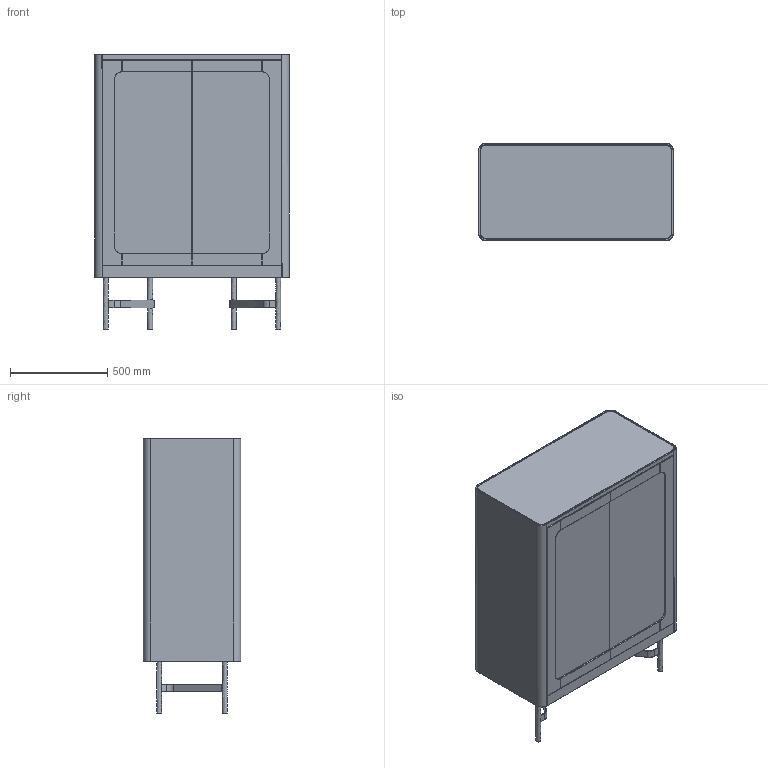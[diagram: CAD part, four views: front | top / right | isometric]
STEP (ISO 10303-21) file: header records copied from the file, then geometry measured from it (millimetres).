
FILE_DESCRIPTION(/* description */ (''),/* implementation_level */ '2;1');
FILE_NAME(/* name */ 'hipper MADIA ME TZAMI',/* time_stamp */ '2023-02-18T13:38:45+02:00',/* author */ (''),/* organization */ (''),/* preprocessor_version */ 'ST-DEVELOPER v16.5',/* originating_system */ '',/* authorisation */ '');
FILE_SCHEMA (('AUTOMOTIVE_DESIGN'));
Length unit declared in the file: millimetre
Products named in the file (1): Document
Bounding box: 1001.16 x 500 x 1410.86 mm (x, y, z)
Volume: 122388074.8 mm3; surface area: 13648366.5 mm2
Topology: 24 solids, 24 shells, 916 faces, 1846 edges, 982 vertices
Faces by surface type: bspline 774, plane 142
Entity records: 26067 total; most frequent: CARTESIAN_POINT 15670, ORIENTED_EDGE 3692, EDGE_CURVE 1846, VERTEX_POINT 982, EDGE_LOOP 920, ADVANCED_FACE 916, FACE_OUTER_BOUND 916, B_SPLINE_CURVE_WITH_KNOTS 536
